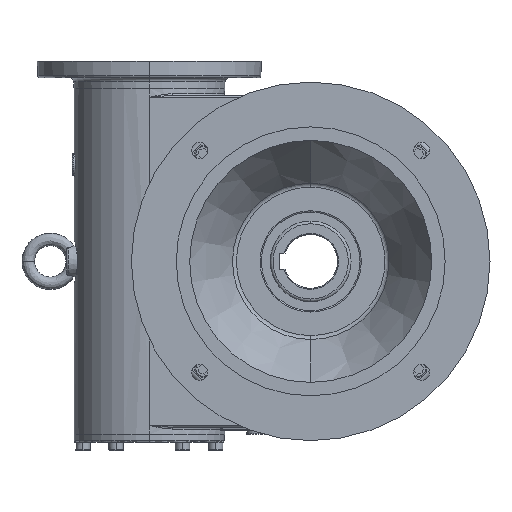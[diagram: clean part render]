
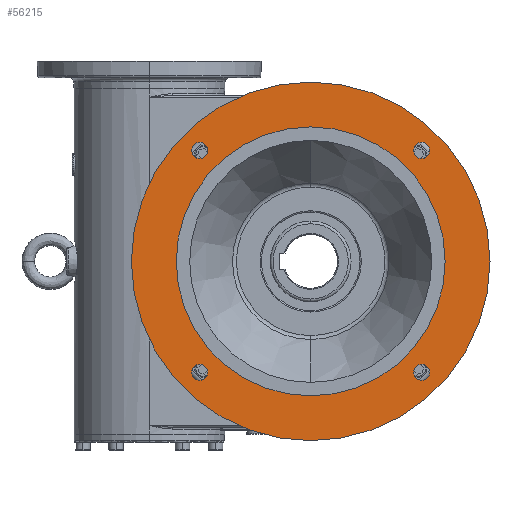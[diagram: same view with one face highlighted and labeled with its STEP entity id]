
A CAD part, left-side view. The second image highlights one B-rep face of the part: STEP entity #56215.
In plain terms, the highlighted planar face has unit normal (-1, 0, 0) as drawn and (1, 0, 0) by its records, which use the part's own axes.
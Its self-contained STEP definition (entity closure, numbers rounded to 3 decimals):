
#9485 = EDGE_CURVE ( 'NONE', #47884, #47827, #52341, .T. ) ;
#9489 = ORIENTED_EDGE ( 'NONE', *, *, #31846, .F. ) ;
#9490 = EDGE_CURVE ( 'NONE', #47347, #47371, #52331, .T. ) ;
#9491 = EDGE_LOOP ( 'NONE', ( #9492, #9489 ) ) ;
#9492 = ORIENTED_EDGE ( 'NONE', *, *, #47877, .F. ) ;
#9493 = ORIENTED_EDGE ( 'NONE', *, *, #9485, .T. ) ;
#23918 = CIRCLE ( 'NONE', #23957, 9. ) ;
#23956 = CARTESIAN_POINT ( 'NONE',  ( 133., 123.744, -123.744 ) ) ;
#23957 = AXIS2_PLACEMENT_3D ( 'NONE', #23956, #24414, #24400 ) ;
#24400 = DIRECTION ( 'NONE',  ( 0., 0., -1. ) ) ;
#24414 = DIRECTION ( 'NONE',  ( 1., 0., 0. ) ) ;
#24447 = DIRECTION ( 'NONE',  ( 0., 0., -1. ) ) ;
#24448 = DIRECTION ( 'NONE',  ( 1., 0., 0. ) ) ;
#24449 = AXIS2_PLACEMENT_3D ( 'NONE', #24465, #24448, #24447 ) ;
#24452 = CIRCLE ( 'NONE', #24449, 9. ) ;
#24465 = CARTESIAN_POINT ( 'NONE',  ( 133., -123.744, -123.744 ) ) ;
#24508 = CARTESIAN_POINT ( 'NONE',  ( 133., -123.744, -114.744 ) ) ;
#24606 = CARTESIAN_POINT ( 'NONE',  ( 133., 123.744, 123.744 ) ) ;
#24624 = DIRECTION ( 'NONE',  ( 0., 0., -1. ) ) ;
#24625 = DIRECTION ( 'NONE',  ( 1., 0., 0. ) ) ;
#24626 = CARTESIAN_POINT ( 'NONE',  ( 133., 123.744, -132.744 ) ) ;
#24627 = CIRCLE ( 'NONE', #24643, 9. ) ;
#24631 = CARTESIAN_POINT ( 'NONE',  ( 133., 123.744, 114.744 ) ) ;
#24643 = AXIS2_PLACEMENT_3D ( 'NONE', #24606, #24625, #24624 ) ;
#24673 = CARTESIAN_POINT ( 'NONE',  ( 133., 123.744, 132.744 ) ) ;
#24675 = CARTESIAN_POINT ( 'NONE',  ( 133., -123.744, 114.744 ) ) ;
#24693 = CARTESIAN_POINT ( 'NONE',  ( 133., -123.744, 132.744 ) ) ;
#24694 = CARTESIAN_POINT ( 'NONE',  ( 133., 123.744, -114.744 ) ) ;
#24701 = DIRECTION ( 'NONE',  ( 0., 0., -1. ) ) ;
#24702 = DIRECTION ( 'NONE',  ( 1., 0., 0. ) ) ;
#24703 = CARTESIAN_POINT ( 'NONE',  ( 133., -123.744, 123.744 ) ) ;
#24704 = AXIS2_PLACEMENT_3D ( 'NONE', #24703, #24702, #24701 ) ;
#24705 = CIRCLE ( 'NONE', #24704, 9. ) ;
#24724 = CARTESIAN_POINT ( 'NONE',  ( 133., -123.744, -132.744 ) ) ;
#25593 = CARTESIAN_POINT ( 'NONE',  ( 133., 0., 200. ) ) ;
#25617 = CARTESIAN_POINT ( 'NONE',  ( 133., 0., -200. ) ) ;
#25624 = DIRECTION ( 'NONE',  ( 0., 0., 1. ) ) ;
#25625 = DIRECTION ( 'NONE',  ( -1., 0., 0. ) ) ;
#25633 = CARTESIAN_POINT ( 'NONE',  ( 133., 0., 0. ) ) ;
#25635 = AXIS2_PLACEMENT_3D ( 'NONE', #25633, #25625, #25624 ) ;
#25641 = CIRCLE ( 'NONE', #25635, 150. ) ;
#25654 = CARTESIAN_POINT ( 'NONE',  ( 133., 0., -150. ) ) ;
#25719 = AXIS2_PLACEMENT_3D ( 'NONE', #25764, #25742, #25741 ) ;
#25741 = DIRECTION ( 'NONE',  ( 0., 0., 1. ) ) ;
#25742 = DIRECTION ( 'NONE',  ( -1., 0., 0. ) ) ;
#25752 = CIRCLE ( 'NONE', #25719, 200. ) ;
#25764 = CARTESIAN_POINT ( 'NONE',  ( 133., 0., 0. ) ) ;
#25790 = CARTESIAN_POINT ( 'NONE',  ( 133., 0., 150. ) ) ;
#28657 = ORIENTED_EDGE ( 'NONE', *, *, #47305, .F. ) ;
#31129 = ORIENTED_EDGE ( 'NONE', *, *, #47809, .T. ) ;
#31793 = ORIENTED_EDGE ( 'NONE', *, *, #56196, .F. ) ;
#31846 = EDGE_CURVE ( 'NONE', #47815, #47805, #53482, .T. ) ;
#33381 = EDGE_LOOP ( 'NONE', ( #9493, #31129 ) ) ;
#34720 = EDGE_LOOP ( 'NONE', ( #31793, #28657 ) ) ;
#38645 = CIRCLE ( 'NONE', #38661, 9. ) ;
#38647 = DIRECTION ( 'NONE',  ( 0., 0., -1. ) ) ;
#38648 = DIRECTION ( 'NONE',  ( 1., 0., 0. ) ) ;
#38649 = CARTESIAN_POINT ( 'NONE',  ( 133., -123.744, -123.744 ) ) ;
#38650 = AXIS2_PLACEMENT_3D ( 'NONE', #38649, #38648, #38647 ) ;
#38651 = CIRCLE ( 'NONE', #38650, 9. ) ;
#38652 = CARTESIAN_POINT ( 'NONE',  ( 133., -123.744, 123.744 ) ) ;
#38654 = DIRECTION ( 'NONE',  ( 0., 0., -1. ) ) ;
#38655 = DIRECTION ( 'NONE',  ( 1., 0., 0. ) ) ;
#38656 = CARTESIAN_POINT ( 'NONE',  ( 133., 123.744, -123.744 ) ) ;
#38660 = CIRCLE ( 'NONE', #38663, 9. ) ;
#38661 = AXIS2_PLACEMENT_3D ( 'NONE', #38652, #38700, #38699 ) ;
#38663 = AXIS2_PLACEMENT_3D ( 'NONE', #38656, #38655, #38654 ) ;
#38677 = FACE_BOUND ( 'NONE', #33381, .T. ) ;
#38678 = FACE_BOUND ( 'NONE', #56191, .T. ) ;
#38679 = PLANE ( 'NONE',  #38694 ) ;
#38690 = FACE_BOUND ( 'NONE', #56197, .T. ) ;
#38694 = AXIS2_PLACEMENT_3D ( 'NONE', #38720, #38719, #38718 ) ;
#38695 = FACE_BOUND ( 'NONE', #56192, .T. ) ;
#38697 = FACE_BOUND ( 'NONE', #34720, .T. ) ;
#38699 = DIRECTION ( 'NONE',  ( 0., 0., -1. ) ) ;
#38700 = DIRECTION ( 'NONE',  ( 1., 0., 0. ) ) ;
#38702 = FACE_OUTER_BOUND ( 'NONE', #9491, .T. ) ;
#38718 = DIRECTION ( 'NONE',  ( 0., 0., 1. ) ) ;
#38719 = DIRECTION ( 'NONE',  ( -1., 0., 0. ) ) ;
#38720 = CARTESIAN_POINT ( 'NONE',  ( 133., 200., 0. ) ) ;
#47305 = EDGE_CURVE ( 'NONE', #47310, #47386, #24452, .T. ) ;
#47310 = VERTEX_POINT ( 'NONE', #24508 ) ;
#47347 = VERTEX_POINT ( 'NONE', #24631 ) ;
#47349 = EDGE_CURVE ( 'NONE', #47371, #47347, #24627, .T. ) ;
#47357 = VERTEX_POINT ( 'NONE', #24626 ) ;
#47359 = EDGE_CURVE ( 'NONE', #47379, #47357, #23918, .T. ) ;
#47368 = VERTEX_POINT ( 'NONE', #24675 ) ;
#47371 = VERTEX_POINT ( 'NONE', #24673 ) ;
#47373 = EDGE_CURVE ( 'NONE', #47385, #47368, #24705, .T. ) ;
#47379 = VERTEX_POINT ( 'NONE', #24694 ) ;
#47385 = VERTEX_POINT ( 'NONE', #24693 ) ;
#47386 = VERTEX_POINT ( 'NONE', #24724 ) ;
#47805 = VERTEX_POINT ( 'NONE', #25593 ) ;
#47809 = EDGE_CURVE ( 'NONE', #47827, #47884, #25641, .T. ) ;
#47815 = VERTEX_POINT ( 'NONE', #25617 ) ;
#47827 = VERTEX_POINT ( 'NONE', #25654 ) ;
#47877 = EDGE_CURVE ( 'NONE', #47805, #47815, #25752, .T. ) ;
#47884 = VERTEX_POINT ( 'NONE', #25790 ) ;
#52308 = CARTESIAN_POINT ( 'NONE',  ( 133., 123.744, 123.744 ) ) ;
#52328 = DIRECTION ( 'NONE',  ( 0., 0., -1. ) ) ;
#52329 = DIRECTION ( 'NONE',  ( 1., 0., 0. ) ) ;
#52331 = CIRCLE ( 'NONE', #52337, 9. ) ;
#52333 = DIRECTION ( 'NONE',  ( 0., 0., 1. ) ) ;
#52334 = DIRECTION ( 'NONE',  ( -1., 0., 0. ) ) ;
#52335 = CARTESIAN_POINT ( 'NONE',  ( 133., 0., 0. ) ) ;
#52336 = AXIS2_PLACEMENT_3D ( 'NONE', #52335, #52334, #52333 ) ;
#52337 = AXIS2_PLACEMENT_3D ( 'NONE', #52308, #52329, #52328 ) ;
#52341 = CIRCLE ( 'NONE', #52336, 150. ) ;
#53467 = AXIS2_PLACEMENT_3D ( 'NONE', #53476, #53519, #53518 ) ;
#53476 = CARTESIAN_POINT ( 'NONE',  ( 133., 0., 0. ) ) ;
#53482 = CIRCLE ( 'NONE', #53467, 200. ) ;
#53518 = DIRECTION ( 'NONE',  ( 0., 0., 1. ) ) ;
#53519 = DIRECTION ( 'NONE',  ( -1., 0., 0. ) ) ;
#56188 = ORIENTED_EDGE ( 'NONE', *, *, #47359, .F. ) ;
#56189 = ORIENTED_EDGE ( 'NONE', *, *, #56190, .F. ) ;
#56190 = EDGE_CURVE ( 'NONE', #47357, #47379, #38660, .T. ) ;
#56191 = EDGE_LOOP ( 'NONE', ( #56194, #56195 ) ) ;
#56192 = EDGE_LOOP ( 'NONE', ( #56204, #56193 ) ) ;
#56193 = ORIENTED_EDGE ( 'NONE', *, *, #47373, .F. ) ;
#56194 = ORIENTED_EDGE ( 'NONE', *, *, #9490, .F. ) ;
#56195 = ORIENTED_EDGE ( 'NONE', *, *, #47349, .F. ) ;
#56196 = EDGE_CURVE ( 'NONE', #47386, #47310, #38651, .T. ) ;
#56197 = EDGE_LOOP ( 'NONE', ( #56189, #56188 ) ) ;
#56201 = EDGE_CURVE ( 'NONE', #47368, #47385, #38645, .T. ) ;
#56204 = ORIENTED_EDGE ( 'NONE', *, *, #56201, .F. ) ;
#56215 = ADVANCED_FACE ( 'NONE', ( #38697, #38695, #38690, #38678, #38677, #38702 ), #38679, .F. ) ;
